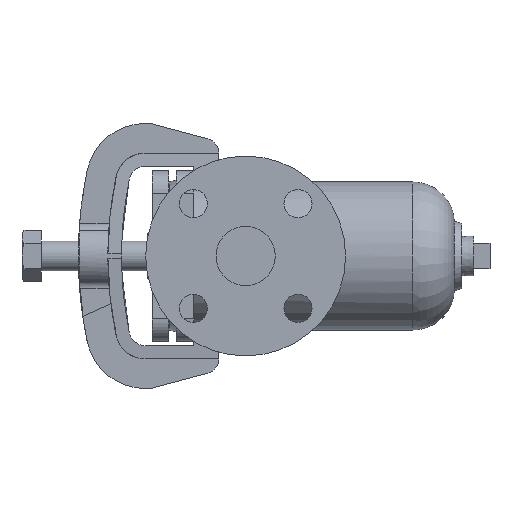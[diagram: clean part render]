
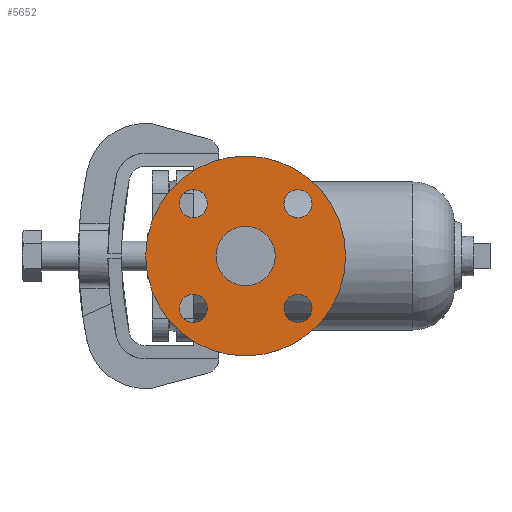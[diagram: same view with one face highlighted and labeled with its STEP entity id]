
A CAD part, left-side view. The second image highlights one B-rep face of the part: STEP entity #5652.
In plain terms, the highlighted planar face has unit normal (-1, 0, 0).
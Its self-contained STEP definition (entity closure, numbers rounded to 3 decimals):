
#31 = DIRECTION ( 'NONE',  ( -1., 0., 0. ) ) ;
#74 = DIRECTION ( 'NONE',  ( -1., 0., 0. ) ) ;
#117 = DIRECTION ( 'NONE',  ( 0., 0., -1. ) ) ;
#312 = VERTEX_POINT ( 'NONE', #5951 ) ;
#338 = EDGE_LOOP ( 'NONE', ( #6623, #3358 ) ) ;
#442 = DIRECTION ( 'NONE',  ( -1., 0., 0. ) ) ;
#472 = AXIS2_PLACEMENT_3D ( 'NONE', #7246, #5444, #3550 ) ;
#620 = AXIS2_PLACEMENT_3D ( 'NONE', #3618, #3697, #3108 ) ;
#647 = DIRECTION ( 'NONE',  ( 0., 1., 0. ) ) ;
#774 = DIRECTION ( 'NONE',  ( 1., 0., 0. ) ) ;
#970 = VERTEX_POINT ( 'NONE', #2652 ) ;
#1246 = CARTESIAN_POINT ( 'NONE',  ( -100., 35.355, -44.855 ) ) ;
#1249 = EDGE_CURVE ( 'NONE', #7914, #2970, #8022, .T. ) ;
#1379 = DIRECTION ( 'NONE',  ( 0., 1., 0. ) ) ;
#1485 = CARTESIAN_POINT ( 'NONE',  ( -100., 0., 0. ) ) ;
#1542 = ORIENTED_EDGE ( 'NONE', *, *, #2217, .F. ) ;
#1574 = AXIS2_PLACEMENT_3D ( 'NONE', #4542, #774, #117 ) ;
#1601 = ORIENTED_EDGE ( 'NONE', *, *, #4433, .F. ) ;
#1641 = CARTESIAN_POINT ( 'NONE',  ( -100., 35.355, 35.355 ) ) ;
#1664 = DIRECTION ( 'NONE',  ( 0., -1., 0. ) ) ;
#1731 = CARTESIAN_POINT ( 'NONE',  ( -100., 0., -67.5 ) ) ;
#1830 = EDGE_CURVE ( 'NONE', #312, #3799, #5150, .T. ) ;
#1894 = FACE_BOUND ( 'NONE', #3903, .T. ) ;
#1983 = FACE_BOUND ( 'NONE', #338, .T. ) ;
#1995 = VERTEX_POINT ( 'NONE', #3727 ) ;
#2164 = ORIENTED_EDGE ( 'NONE', *, *, #3217, .F. ) ;
#2217 = EDGE_CURVE ( 'NONE', #1995, #2972, #5292, .T. ) ;
#2285 = CARTESIAN_POINT ( 'NONE',  ( -100., -35.355, 35.355 ) ) ;
#2480 = VERTEX_POINT ( 'NONE', #1246 ) ;
#2543 = CIRCLE ( 'NONE', #3735, 9.5 ) ;
#2621 = DIRECTION ( 'NONE',  ( 0., 0., 1. ) ) ;
#2652 = CARTESIAN_POINT ( 'NONE',  ( -100., -35.355, 25.855 ) ) ;
#2697 = FACE_BOUND ( 'NONE', #7360, .T. ) ;
#2751 = DIRECTION ( 'NONE',  ( 0., 0., -1. ) ) ;
#2780 = DIRECTION ( 'NONE',  ( -1., 0., 0. ) ) ;
#2794 = DIRECTION ( 'NONE',  ( 0., 0., -1. ) ) ;
#2946 = CARTESIAN_POINT ( 'NONE',  ( -100., -35.355, -44.855 ) ) ;
#2970 = VERTEX_POINT ( 'NONE', #3106 ) ;
#2972 = VERTEX_POINT ( 'NONE', #2946 ) ;
#2985 = DIRECTION ( 'NONE',  ( 0., 0., 1. ) ) ;
#3106 = CARTESIAN_POINT ( 'NONE',  ( -100., 0., 67.5 ) ) ;
#3108 = DIRECTION ( 'NONE',  ( 0., 0., 1. ) ) ;
#3217 = EDGE_CURVE ( 'NONE', #7983, #6014, #5318, .T. ) ;
#3358 = ORIENTED_EDGE ( 'NONE', *, *, #7418, .F. ) ;
#3477 = EDGE_LOOP ( 'NONE', ( #2164, #4438 ) ) ;
#3484 = ORIENTED_EDGE ( 'NONE', *, *, #4090, .F. ) ;
#3550 = DIRECTION ( 'NONE',  ( 0., 0., 1. ) ) ;
#3583 = AXIS2_PLACEMENT_3D ( 'NONE', #7959, #6030, #5321 ) ;
#3618 = CARTESIAN_POINT ( 'NONE',  ( -100., 35.355, -35.355 ) ) ;
#3697 = DIRECTION ( 'NONE',  ( -1., 0., 0. ) ) ;
#3727 = CARTESIAN_POINT ( 'NONE',  ( -100., -35.355, -25.855 ) ) ;
#3735 = AXIS2_PLACEMENT_3D ( 'NONE', #3820, #31, #647 ) ;
#3747 = CARTESIAN_POINT ( 'NONE',  ( -100., 35.355, 35.355 ) ) ;
#3778 = FACE_OUTER_BOUND ( 'NONE', #4583, .T. ) ;
#3799 = VERTEX_POINT ( 'NONE', #4719 ) ;
#3817 = EDGE_CURVE ( 'NONE', #5896, #970, #4546, .T. ) ;
#3820 = CARTESIAN_POINT ( 'NONE',  ( -100., -35.355, -35.355 ) ) ;
#3903 = EDGE_LOOP ( 'NONE', ( #7011, #7177 ) ) ;
#4026 = ORIENTED_EDGE ( 'NONE', *, *, #1249, .T. ) ;
#4052 = AXIS2_PLACEMENT_3D ( 'NONE', #2285, #4847, #2751 ) ;
#4059 = CIRCLE ( 'NONE', #472, 9.5 ) ;
#4090 = EDGE_CURVE ( 'NONE', #2972, #1995, #2543, .T. ) ;
#4099 = AXIS2_PLACEMENT_3D ( 'NONE', #1485, #2780, #6086 ) ;
#4170 = CARTESIAN_POINT ( 'NONE',  ( -100., -35.355, 35.355 ) ) ;
#4230 = CIRCLE ( 'NONE', #620, 9.5 ) ;
#4399 = AXIS2_PLACEMENT_3D ( 'NONE', #8006, #442, #2985 ) ;
#4433 = EDGE_CURVE ( 'NONE', #3799, #312, #4824, .T. ) ;
#4438 = ORIENTED_EDGE ( 'NONE', *, *, #7859, .F. ) ;
#4453 = FACE_BOUND ( 'NONE', #3477, .T. ) ;
#4542 = CARTESIAN_POINT ( 'NONE',  ( -100., 0., 0. ) ) ;
#4546 = CIRCLE ( 'NONE', #6558, 9.5 ) ;
#4583 = EDGE_LOOP ( 'NONE', ( #5492, #4026 ) ) ;
#4709 = CARTESIAN_POINT ( 'NONE',  ( -100., -35.355, 44.855 ) ) ;
#4719 = CARTESIAN_POINT ( 'NONE',  ( -100., 35.355, 25.855 ) ) ;
#4724 = EDGE_LOOP ( 'NONE', ( #1542, #3484 ) ) ;
#4824 = CIRCLE ( 'NONE', #5623, 9.5 ) ;
#4847 = DIRECTION ( 'NONE',  ( -1., 0., 0. ) ) ;
#4853 = DIRECTION ( 'NONE',  ( -1., 0., 0. ) ) ;
#5150 = CIRCLE ( 'NONE', #6488, 9.5 ) ;
#5292 = CIRCLE ( 'NONE', #8236, 9.5 ) ;
#5318 = CIRCLE ( 'NONE', #3583, 20. ) ;
#5321 = DIRECTION ( 'NONE',  ( 0., 0., 1. ) ) ;
#5444 = DIRECTION ( 'NONE',  ( -1., 0., 0. ) ) ;
#5492 = ORIENTED_EDGE ( 'NONE', *, *, #6802, .T. ) ;
#5544 = DIRECTION ( 'NONE',  ( -1., 0., 0. ) ) ;
#5623 = AXIS2_PLACEMENT_3D ( 'NONE', #3747, #4853, #1664 ) ;
#5652 = ADVANCED_FACE ( 'NONE', ( #8270, #1983, #2697, #1894, #4453, #3778 ), #7641, .F. ) ;
#5753 = CARTESIAN_POINT ( 'NONE',  ( -100., 0., 0. ) ) ;
#5896 = VERTEX_POINT ( 'NONE', #4709 ) ;
#5897 = DIRECTION ( 'NONE',  ( -1., 0., 0. ) ) ;
#5951 = CARTESIAN_POINT ( 'NONE',  ( -100., 35.355, 44.855 ) ) ;
#5994 = VERTEX_POINT ( 'NONE', #7551 ) ;
#6014 = VERTEX_POINT ( 'NONE', #6218 ) ;
#6030 = DIRECTION ( 'NONE',  ( -1., 0., 0. ) ) ;
#6054 = AXIS2_PLACEMENT_3D ( 'NONE', #5753, #74, #2621 ) ;
#6086 = DIRECTION ( 'NONE',  ( 0., 0., 1. ) ) ;
#6218 = CARTESIAN_POINT ( 'NONE',  ( -100., 0., -20. ) ) ;
#6418 = CARTESIAN_POINT ( 'NONE',  ( -100., 0., 20. ) ) ;
#6488 = AXIS2_PLACEMENT_3D ( 'NONE', #1641, #5544, #8092 ) ;
#6499 = CIRCLE ( 'NONE', #4099, 20. ) ;
#6558 = AXIS2_PLACEMENT_3D ( 'NONE', #4170, #6691, #2794 ) ;
#6598 = CIRCLE ( 'NONE', #4052, 9.5 ) ;
#6623 = ORIENTED_EDGE ( 'NONE', *, *, #3817, .F. ) ;
#6691 = DIRECTION ( 'NONE',  ( -1., 0., 0. ) ) ;
#6802 = EDGE_CURVE ( 'NONE', #2970, #7914, #8212, .T. ) ;
#6917 = EDGE_CURVE ( 'NONE', #5994, #2480, #4059, .T. ) ;
#7011 = ORIENTED_EDGE ( 'NONE', *, *, #6917, .F. ) ;
#7080 = ORIENTED_EDGE ( 'NONE', *, *, #1830, .F. ) ;
#7177 = ORIENTED_EDGE ( 'NONE', *, *, #7918, .F. ) ;
#7246 = CARTESIAN_POINT ( 'NONE',  ( -100., 35.355, -35.355 ) ) ;
#7360 = EDGE_LOOP ( 'NONE', ( #7080, #1601 ) ) ;
#7418 = EDGE_CURVE ( 'NONE', #970, #5896, #6598, .T. ) ;
#7551 = CARTESIAN_POINT ( 'NONE',  ( -100., 35.355, -25.855 ) ) ;
#7641 = PLANE ( 'NONE',  #1574 ) ;
#7787 = CARTESIAN_POINT ( 'NONE',  ( -100., -35.355, -35.355 ) ) ;
#7859 = EDGE_CURVE ( 'NONE', #6014, #7983, #6499, .T. ) ;
#7914 = VERTEX_POINT ( 'NONE', #1731 ) ;
#7918 = EDGE_CURVE ( 'NONE', #2480, #5994, #4230, .T. ) ;
#7959 = CARTESIAN_POINT ( 'NONE',  ( -100., 0., 0. ) ) ;
#7983 = VERTEX_POINT ( 'NONE', #6418 ) ;
#8006 = CARTESIAN_POINT ( 'NONE',  ( -100., 0., 0. ) ) ;
#8022 = CIRCLE ( 'NONE', #4399, 67.5 ) ;
#8092 = DIRECTION ( 'NONE',  ( 0., -1., 0. ) ) ;
#8212 = CIRCLE ( 'NONE', #6054, 67.5 ) ;
#8236 = AXIS2_PLACEMENT_3D ( 'NONE', #7787, #5897, #1379 ) ;
#8270 = FACE_BOUND ( 'NONE', #4724, .T. ) ;
